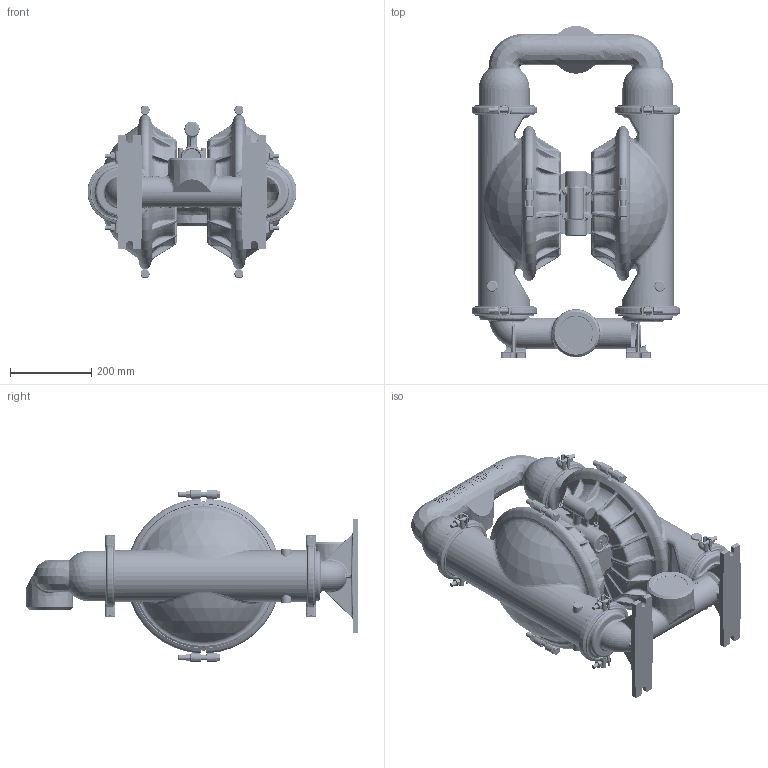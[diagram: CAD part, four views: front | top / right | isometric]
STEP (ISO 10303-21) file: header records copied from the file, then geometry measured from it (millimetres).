
FILE_DESCRIPTION (( 'STEP AP203' ), '1' );
FILE_NAME ('T15_AL_CLAMP_TOP.STEP', '2026-04-28T06:42:45', ( '' ), ( '' ), 'SwSTEP 2.0', 'SolidWorks 2022', '' );
FILE_SCHEMA (( 'CONFIG_CONTROL_DESIGN' ));
Length unit declared in the file: inch
Products named in the file (1): T15_AL_CLAMP_TOP
Bounding box: 513.04 x 816.02 x 425.09 mm (x, y, z)
Volume: 40021030.8 mm3; surface area: 1674473.5 mm2
Topology: 1 solids, 1 shells, 6564 faces, 16508 edges, 9997 vertices
Faces by surface type: plane 2453, bspline 2146, cylinder 831, cone 520, torus 482, sphere 132
Entity records: 467219 total; most frequent: CARTESIAN_POINT 329389, ORIENTED_EDGE 32952, DIRECTION 22848, EDGE_CURVE 16476, VERTEX_POINT 9991, AXIS2_PLACEMENT_3D 8678, EDGE_LOOP 6811, ADVANCED_FACE 6564
